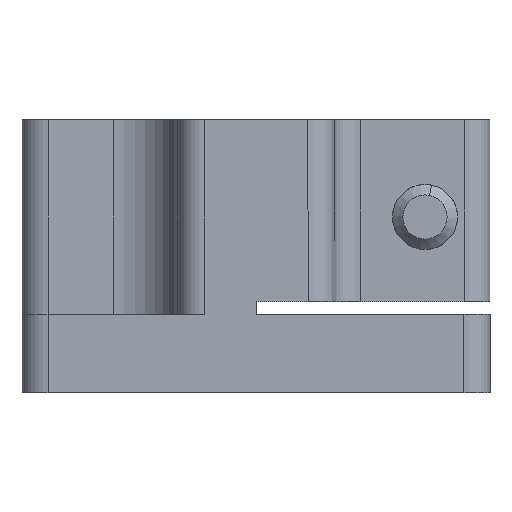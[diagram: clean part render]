
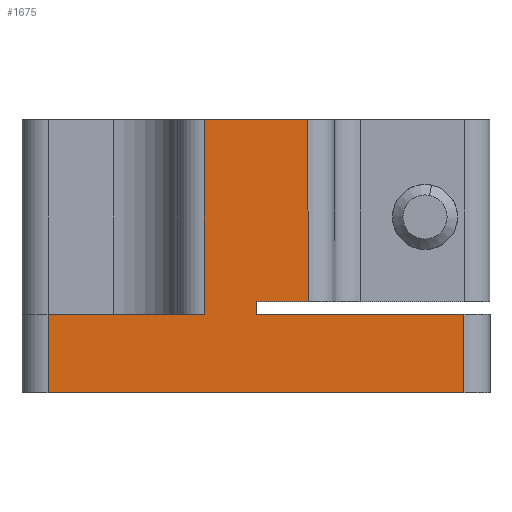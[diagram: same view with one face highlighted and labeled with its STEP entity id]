
A CAD part, left-side view. The second image highlights one B-rep face of the part: STEP entity #1675.
In plain terms, the highlighted planar face has unit normal (-1, 0, 0).
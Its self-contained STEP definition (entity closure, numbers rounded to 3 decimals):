
#150 = DIRECTION ( 'NONE',  ( 0., 1., 0. ) ) ;
#351 = CARTESIAN_POINT ( 'NONE',  ( -18.829, 22.506, 10.5 ) ) ;
#688 = LINE ( 'NONE', #5194, #4575 ) ;
#852 = LINE ( 'NONE', #11369, #12318 ) ;
#951 = ORIENTED_EDGE ( 'NONE', *, *, #9434, .F. ) ;
#1029 = VERTEX_POINT ( 'NONE', #1638 ) ;
#1074 = EDGE_CURVE ( 'NONE', #10800, #12603, #852, .T. ) ;
#1162 = ORIENTED_EDGE ( 'NONE', *, *, #12379, .T. ) ;
#1476 = VECTOR ( 'NONE', #11052, 1000. ) ;
#1638 = CARTESIAN_POINT ( 'NONE',  ( -18.829, 22.506, -4.5 ) ) ;
#1675 = ADVANCED_FACE ( 'NONE', ( #3343 ), #11528, .F. ) ;
#1710 = VERTEX_POINT ( 'NONE', #2921 ) ;
#1747 = VERTEX_POINT ( 'NONE', #10048 ) ;
#1827 = DIRECTION ( 'NONE',  ( 0., 0., -1. ) ) ;
#1914 = DIRECTION ( 'NONE',  ( 0., 0., 1. ) ) ;
#2026 = LINE ( 'NONE', #5633, #13154 ) ;
#2348 = CARTESIAN_POINT ( 'NONE',  ( -18.829, 15.596, -4.5 ) ) ;
#2501 = VERTEX_POINT ( 'NONE', #8886 ) ;
#2525 = VECTOR ( 'NONE', #10541, 1000. ) ;
#2564 = CARTESIAN_POINT ( 'NONE',  ( -18.829, 14.506, 10.5 ) ) ;
#2598 = LINE ( 'NONE', #6205, #10855 ) ;
#2644 = ORIENTED_EDGE ( 'NONE', *, *, #1074, .F. ) ;
#2921 = CARTESIAN_POINT ( 'NONE',  ( -18.829, 34.506, -4.5 ) ) ;
#3343 = FACE_OUTER_BOUND ( 'NONE', #6571, .T. ) ;
#3858 = VECTOR ( 'NONE', #8662, 1000. ) ;
#3957 = EDGE_CURVE ( 'NONE', #10817, #9636, #2026, .T. ) ;
#4204 = ORIENTED_EDGE ( 'NONE', *, *, #12443, .F. ) ;
#4335 = ORIENTED_EDGE ( 'NONE', *, *, #8870, .T. ) ;
#4430 = ORIENTED_EDGE ( 'NONE', *, *, #5081, .F. ) ;
#4575 = VECTOR ( 'NONE', #1914, 1000. ) ;
#4886 = DIRECTION ( 'NONE',  ( 1., 0., 0. ) ) ;
#5081 = EDGE_CURVE ( 'NONE', #6420, #1747, #10422, .T. ) ;
#5194 = CARTESIAN_POINT ( 'NONE',  ( -18.829, 34.506, 0. ) ) ;
#5313 = DIRECTION ( 'NONE',  ( 0., 0., -1. ) ) ;
#5633 = CARTESIAN_POINT ( 'NONE',  ( -18.829, 18.506, -10.5 ) ) ;
#5641 = CARTESIAN_POINT ( 'NONE',  ( -18.829, 34.506, -10.5 ) ) ;
#5743 = CARTESIAN_POINT ( 'NONE',  ( -18.829, 18.506, 10.5 ) ) ;
#5917 = VERTEX_POINT ( 'NONE', #351 ) ;
#6016 = CARTESIAN_POINT ( 'NONE',  ( -18.829, 14.506, -3.5 ) ) ;
#6060 = VECTOR ( 'NONE', #6581, 1000. ) ;
#6150 = EDGE_CURVE ( 'NONE', #1710, #1029, #2598, .T. ) ;
#6205 = CARTESIAN_POINT ( 'NONE',  ( -18.829, 18.506, -4.5 ) ) ;
#6420 = VERTEX_POINT ( 'NONE', #11420 ) ;
#6571 = EDGE_LOOP ( 'NONE', ( #2644, #12949, #4335, #13629, #8664, #7250, #4204, #4430, #951, #1162 ) ) ;
#6581 = DIRECTION ( 'NONE',  ( 0., -1., 0. ) ) ;
#7250 = ORIENTED_EDGE ( 'NONE', *, *, #3957, .F. ) ;
#7277 = CARTESIAN_POINT ( 'NONE',  ( -18.829, 22.506, 3. ) ) ;
#7629 = LINE ( 'NONE', #13744, #9362 ) ;
#8487 = EDGE_CURVE ( 'NONE', #9636, #1710, #688, .T. ) ;
#8662 = DIRECTION ( 'NONE',  ( 0., -1., 0. ) ) ;
#8664 = ORIENTED_EDGE ( 'NONE', *, *, #8487, .F. ) ;
#8870 = EDGE_CURVE ( 'NONE', #5917, #1029, #8922, .T. ) ;
#8886 = CARTESIAN_POINT ( 'NONE',  ( -18.829, 18.506, -3.5 ) ) ;
#8887 = AXIS2_PLACEMENT_3D ( 'NONE', #10230, #4886, #10473 ) ;
#8922 = LINE ( 'NONE', #7277, #2525 ) ;
#9203 = EDGE_CURVE ( 'NONE', #10800, #5917, #13320, .T. ) ;
#9362 = VECTOR ( 'NONE', #5313, 1000. ) ;
#9434 = EDGE_CURVE ( 'NONE', #2501, #6420, #7629, .T. ) ;
#9636 = VERTEX_POINT ( 'NONE', #5641 ) ;
#9877 = DIRECTION ( 'NONE',  ( 0., 1., 0. ) ) ;
#10048 = CARTESIAN_POINT ( 'NONE',  ( -18.829, 2.506, -4.5 ) ) ;
#10230 = CARTESIAN_POINT ( 'NONE',  ( -18.829, 2.506, 10.5 ) ) ;
#10422 = LINE ( 'NONE', #2348, #3858 ) ;
#10459 = VECTOR ( 'NONE', #150, 1000. ) ;
#10473 = DIRECTION ( 'NONE',  ( 0., 0., -1. ) ) ;
#10541 = DIRECTION ( 'NONE',  ( 0., 0., -1. ) ) ;
#10609 = LINE ( 'NONE', #10770, #6060 ) ;
#10770 = CARTESIAN_POINT ( 'NONE',  ( -18.829, 9.506, -3.5 ) ) ;
#10800 = VERTEX_POINT ( 'NONE', #2564 ) ;
#10817 = VERTEX_POINT ( 'NONE', #12173 ) ;
#10855 = VECTOR ( 'NONE', #11620, 1000. ) ;
#11052 = DIRECTION ( 'NONE',  ( 0., 0., -1. ) ) ;
#11369 = CARTESIAN_POINT ( 'NONE',  ( -18.829, 14.506, 0. ) ) ;
#11420 = CARTESIAN_POINT ( 'NONE',  ( -18.829, 18.506, -4.5 ) ) ;
#11528 = PLANE ( 'NONE',  #8887 ) ;
#11620 = DIRECTION ( 'NONE',  ( 0., -1., 0. ) ) ;
#12173 = CARTESIAN_POINT ( 'NONE',  ( -18.829, 2.506, -10.5 ) ) ;
#12318 = VECTOR ( 'NONE', #1827, 1000. ) ;
#12379 = EDGE_CURVE ( 'NONE', #2501, #12603, #10609, .T. ) ;
#12443 = EDGE_CURVE ( 'NONE', #1747, #10817, #13650, .T. ) ;
#12603 = VERTEX_POINT ( 'NONE', #6016 ) ;
#12949 = ORIENTED_EDGE ( 'NONE', *, *, #9203, .T. ) ;
#13018 = CARTESIAN_POINT ( 'NONE',  ( -18.829, 2.506, 0. ) ) ;
#13154 = VECTOR ( 'NONE', #9877, 1000. ) ;
#13320 = LINE ( 'NONE', #5743, #10459 ) ;
#13629 = ORIENTED_EDGE ( 'NONE', *, *, #6150, .F. ) ;
#13650 = LINE ( 'NONE', #13018, #1476 ) ;
#13744 = CARTESIAN_POINT ( 'NONE',  ( -18.829, 18.506, 0. ) ) ;
